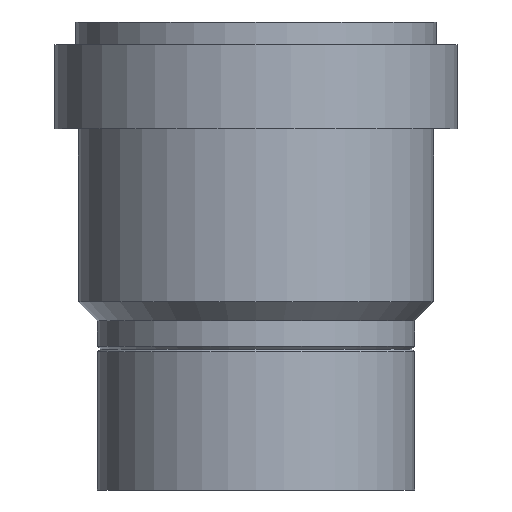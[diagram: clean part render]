
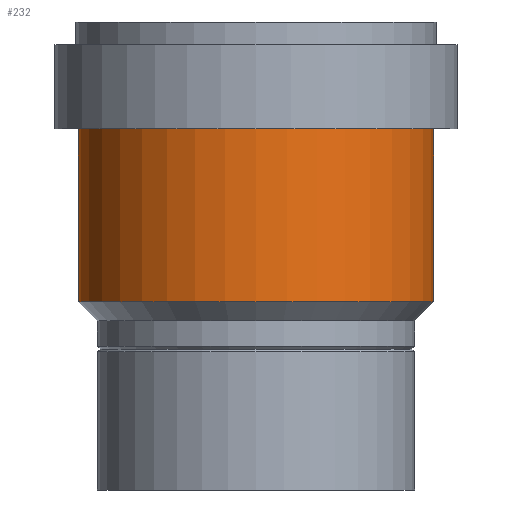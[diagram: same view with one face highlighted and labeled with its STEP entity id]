
A CAD part, front view. The second image highlights one B-rep face of the part: STEP entity #232.
In plain terms, the highlighted cylindrical face has radius 31.5 mm (diameter 63 mm), a full revolution.
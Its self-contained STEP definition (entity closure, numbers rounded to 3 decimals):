
#23=CYLINDRICAL_SURFACE('',#281,31.5);
#37=FACE_BOUND('',#84,.T.);
#56=FACE_OUTER_BOUND('',#83,.T.);
#83=EDGE_LOOP('',(#178));
#84=EDGE_LOOP('',(#179));
#114=CIRCLE('',#280,31.5);
#115=CIRCLE('',#282,31.5);
#133=VERTEX_POINT('',#406);
#134=VERTEX_POINT('',#409);
#152=EDGE_CURVE('',#133,#133,#114,.T.);
#153=EDGE_CURVE('',#134,#134,#115,.T.);
#178=ORIENTED_EDGE('',*,*,#152,.T.);
#179=ORIENTED_EDGE('',*,*,#153,.F.);
#232=ADVANCED_FACE('',(#56,#37),#23,.T.);
#280=AXIS2_PLACEMENT_3D('',#407,#337,#338);
#281=AXIS2_PLACEMENT_3D('',#408,#339,#340);
#282=AXIS2_PLACEMENT_3D('',#410,#341,#342);
#337=DIRECTION('center_axis',(0.,0.,-1.));
#338=DIRECTION('ref_axis',(1.,0.,0.));
#339=DIRECTION('center_axis',(0.,0.,-1.));
#340=DIRECTION('ref_axis',(-1.,0.,0.));
#341=DIRECTION('center_axis',(0.,0.,-1.));
#342=DIRECTION('ref_axis',(1.,0.,0.));
#406=CARTESIAN_POINT('',(-31.5,0.,-18.95));
#407=CARTESIAN_POINT('Origin',(0.,0.,-18.95));
#408=CARTESIAN_POINT('Origin',(0.,0.,-34.288));
#409=CARTESIAN_POINT('',(-31.5,0.,-49.625));
#410=CARTESIAN_POINT('Origin',(0.,0.,-49.625));
